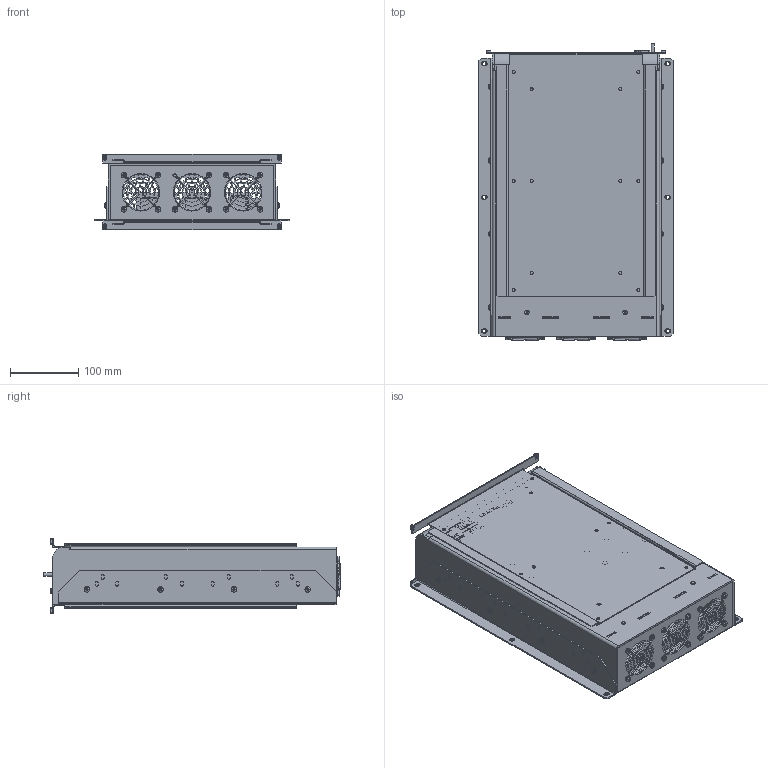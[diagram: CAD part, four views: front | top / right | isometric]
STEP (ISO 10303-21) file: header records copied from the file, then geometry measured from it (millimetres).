
FILE_DESCRIPTION(/* description */ ('Unknown','CAx-IF Rec.Pracs.---Representation and Presentation of Product Manufacturing Information (PMI)---4.0---2014-10-13','CAx-IF Rec.Pracs.---3D Tessellated Geometry---0.4---2014-09-14','2;1'),/* implementation_level */ '2;1');
FILE_NAME(/* name */ 'TDS-3300',/* time_stamp */ '2024-06-05T08:56:40+02:00',/* author */ ('Unknown'),/* organization */ ('Unknown'),/* preprocessor_version */ 'ST-DEVELOPER v18.102',/* originating_system */ 'Solid Edge',/* authorisation */ 'Unknown');
FILE_SCHEMA (('AP242_MANAGED_MODEL_BASED_3D_ENGINEERING_MIM_LF { 1 0 10303 442 1 1 4 }'));
Products named in the file (29): TDS-3300; 0903084503_oa_0; 0903084503; P-FHS-M5-15; 0903085703_oa_1; 0903085703; 12010048; 0904025601; 21100660; 01220040; 37011067A_oa_2; J5TDS-3300_PCB_v03; 2601475; J4TDS-3300_PCB_v03; J3TDS-3300_PCB_v03; 1722163; J2TDS-3300_PCB_v03; pxc_1842937_03_MCD-1-5-4-G1F-3-81_3D; mcd_1.5-4-g1f-3.81; J1TDS-3300_PCB_v03; 2601187; 0903085902; Escuadras TDS-3300v2-Ext; 0904025501; 03100017; 01220017; 0903054403; 96010110_realista
Assembly tree (59 placements, depth 5):
  TDS-3300
    0903084503_oa_0
      0903084503
      P-FHS-M5-15
    0903085703_oa_1
      0903085703
    12010048  x3
    0904025601  x2
      0904025601
      21100660
    01220040  x11
    37011067A_oa_2
      J5TDS-3300_PCB_v03
        2601475
      J4TDS-3300_PCB_v03
        2601475
      J3TDS-3300_PCB_v03
        1722163
      J2TDS-3300_PCB_v03
        pxc_1842937_03_MCD-1-5-4-G1F-3-81_3D
          mcd_1.5-4-g1f-3.81
      J1TDS-3300_PCB_v03
        2601187
    0903085902
    Escuadras TDS-3300v2-Ext
      0904025501  x2
      03100017  x8
      01220017  x8
    0903054403  x2
    96010110_realista
Bounding box: 285.4 x 434.59 x 110.8 mm (x, y, z)
Volume: 1286640.8 mm3; surface area: 1255804.5 mm2
Topology: 65 solids, 65 shells, 6810 faces, 18314 edges, 12082 vertices
Faces by surface type: plane 5029, cylinder 898, bspline 695, cone 93, torus 50, sphere 45
Full cylindrical faces by diameter (mm): 0.457 x2, 0.6 x9, 1.5 x9, 1.79 x36, 2 x6, 2.013 x2, 2.4 x4, 2.7 x2, 3.179 x1, 3.2 x22, 3.5 x4, 3.579 x1, 4 x19, 4.2 x27, 4.37 x12, 4.5 x42, 5 x6, 5.4 x14, 6.5 x13, 7.37 x18, 7.7 x8, 8 x19, 55 x6
Entity records: 237494 total; most frequent: CARTESIAN_POINT 58661, ORIENTED_EDGE 29968, DIRECTION 25506, EDGE_CURVE 14984, LINE 11724, VECTOR 11724, VERTEX_POINT 10061, FACE_BOUND 7087
